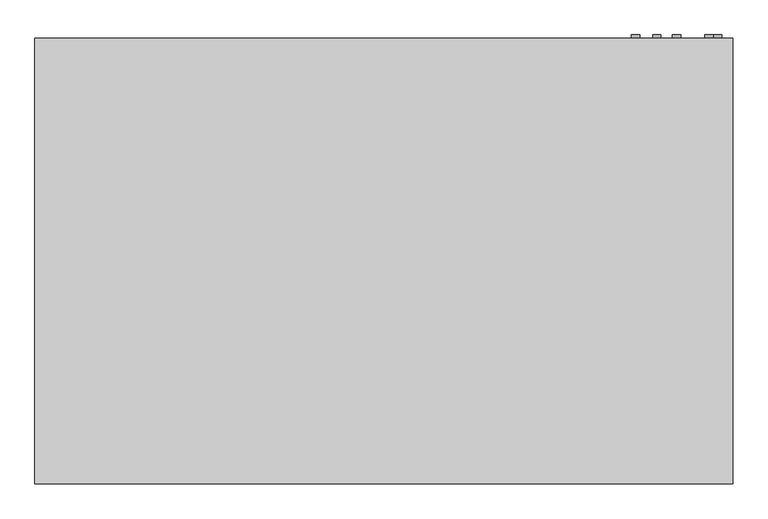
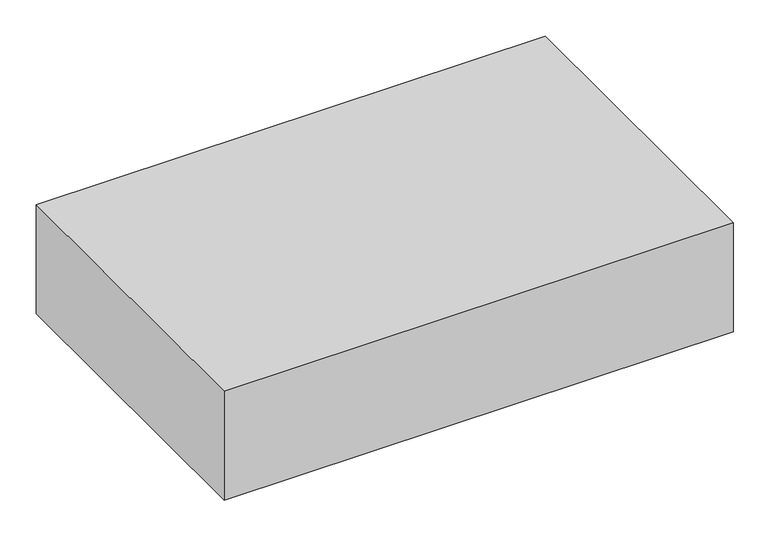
"""IFC4 building model written with IfcOpenShell, lengths in millimetres: proxy geometry, Exposed_Horizontal_Fan_Coil_Unit_-_42CGB_-_CARRIER_-_4-Pipe_BS-BR_RH_2022 : Size 06 - 277v/60Hz/1Ph - 4/1 Coil."""

from ifc_helpers import new_model, si_unit, point, frame, frame_2d, origin, place, context, project, spatial, polyline, circle_curve, trimmed, segment, composite_curve, outline, extrude, source, transform, mapped, element, save


def mechanical_equipment_9e45b63e(model_context):
    return source(origin(), model_context, "Body", "SweptSolid", [
        extrude(outline(polyline([(592.1375, -439.7375), (592.1375, -611.1875), (-287.3375, -611.1875), (-287.3375, -439.7375), (592.1375, -439.7375)])), frame((0.0, 0.0, -311.15), z_axis=(0.0, 0.0, 1.0), x_axis=(1.0, 0.0, 0.0)), (0.0, 0.0, 1.0), 6.35),
        extrude(outline(composite_curve([segment(trimmed(circle_curve(frame_2d((-85.725, 796.925)), 7.9375), [point((-85.725, 804.8625))], [point((-85.725, 788.9875))], False, "CARTESIAN"), True, "CONTINUOUS"), segment(trimmed(circle_curve(frame_2d((-85.725, 796.925)), 7.9375), [point((-85.725, 788.9875))], [point((-85.725, 804.8625))], False, "CARTESIAN"), True, "CONTINUOUS")], self_intersect=False)), frame((0.0, 192.0875, 0.0), z_axis=(0.0, 1.0, 0.0), x_axis=(0.0, 0.0, 1.0)), (0.0, 0.0, 1.0), 6.35),
        extrude(outline(composite_curve([segment(trimmed(circle_curve(frame_2d((-44.45, 717.55)), 7.9375), [point((-44.45, 725.4875))], [point((-44.45, 709.6125))], False, "CARTESIAN"), True, "CONTINUOUS"), segment(trimmed(circle_curve(frame_2d((-44.45, 717.55)), 7.9375), [point((-44.45, 709.6125))], [point((-44.45, 725.4875))], False, "CARTESIAN"), True, "CONTINUOUS")], self_intersect=False)), frame((0.0, 192.0875, 0.0), z_axis=(0.0, 1.0, 0.0), x_axis=(0.0, 0.0, 1.0)), (0.0, 0.0, 1.0), 6.35),
        extrude(outline(composite_curve([segment(trimmed(circle_curve(frame_2d((-95.25, 679.45)), 7.9375), [point((-95.25, 687.3875))], [point((-95.25, 671.5125))], False, "CARTESIAN"), True, "CONTINUOUS"), segment(trimmed(circle_curve(frame_2d((-95.25, 679.45)), 7.9375), [point((-95.25, 671.5125))], [point((-95.25, 687.3875))], False, "CARTESIAN"), True, "CONTINUOUS")], self_intersect=False)), frame((0.0, 192.0875, 0.0), z_axis=(0.0, 1.0, 0.0), x_axis=(0.0, 0.0, 1.0)), (0.0, 0.0, 1.0), 6.35),
        extrude(outline(composite_curve([segment(trimmed(circle_curve(frame_2d((-60.325, 638.175)), 7.9375), [point((-60.325, 646.1125))], [point((-60.325, 630.2375))], False, "CARTESIAN"), True, "CONTINUOUS"), segment(trimmed(circle_curve(frame_2d((-60.325, 638.175)), 7.9375), [point((-60.325, 630.2375))], [point((-60.325, 646.1125))], False, "CARTESIAN"), True, "CONTINUOUS")], self_intersect=False)), frame((0.0, 192.0875, 0.0), z_axis=(0.0, 1.0, 0.0), x_axis=(0.0, 0.0, 1.0)), (0.0, 0.0, 1.0), 6.35),
        extrude(outline(composite_curve([segment(trimmed(circle_curve(frame_2d((-260.35, 781.05)), 9.525), [point((-260.35, 790.575))], [point((-260.35, 771.525))], False, "CARTESIAN"), True, "CONTINUOUS"), segment(trimmed(circle_curve(frame_2d((-260.35, 781.05)), 9.525), [point((-260.35, 771.525))], [point((-260.35, 790.575))], False, "CARTESIAN"), True, "CONTINUOUS")], self_intersect=False)), frame((0.0, 192.0875, 0.0), z_axis=(0.0, 1.0, 0.0), x_axis=(0.0, 0.0, 1.0)), (0.0, 0.0, 1.0), 6.35),
        extrude(outline(polyline([(-520.7, 192.0875), (825.5, 192.0875), (825.5, -668.3375), (-520.7, -668.3375), (-520.7, 192.0875)])), frame((0.0, 0.0, -304.8), z_axis=(0.0, 0.0, 1.0), x_axis=(1.0, 0.0, 0.0)), (0.0, 0.0, 1.0), 304.8),
        extrude(outline(polyline([(622.3, 115.8875), (622.3, -138.1125), (-317.5, -138.1125), (-317.5, 115.8875), (622.3, 115.8875)])), frame((0.0, 0.0, -311.15), z_axis=(0.0, 0.0, 1.0), x_axis=(1.0, 0.0, 0.0)), (0.0, 0.0, 1.0), 6.35),
    ])


if __name__ == "__main__":
    model = new_model("IFC4")
    model_context = context("Model", 3, world=origin())
    ifc_project = project(units=[si_unit("LENGTHUNIT", "METRE", prefix="MILLI")], contexts=[model_context])
    site = spatial("IfcSite", under=ifc_project)
    building = spatial("IfcBuilding", under=site)
    placement = place(None, origin())
    mechanical_equipment_shape = mechanical_equipment_9e45b63e(model_context)
    element("IfcBuildingElementProxy", 1, Name="Exposed_Horizontal_Fan_Coil_Unit_-_42CGB_-_CARRIER_-_4-Pipe_BS-BR_RH_2022 : Size 06 - 277v/60Hz/1Ph - 4/1 Coil", ObjectType="Exposed_Horizontal_Fan_Coil_Unit_-_42CGB_-_CARRIER_-_4-Pipe_BS-BR_RH_2022 : Size 06 - 277v/60Hz/1Ph - 4/1 Coil", at=placement, inside=building, context=model_context, shape_type="MappedRepresentation", body=[
        mapped(mechanical_equipment_shape, transform((0.0, 0.0, 0.0), x_axis=(1.0, 0.0, 0.0), y_axis=(0.0, 1.0, 0.0), z_axis=(0.0, 0.0, 1.0))),
    ])
    save(model, "model.ifc")
